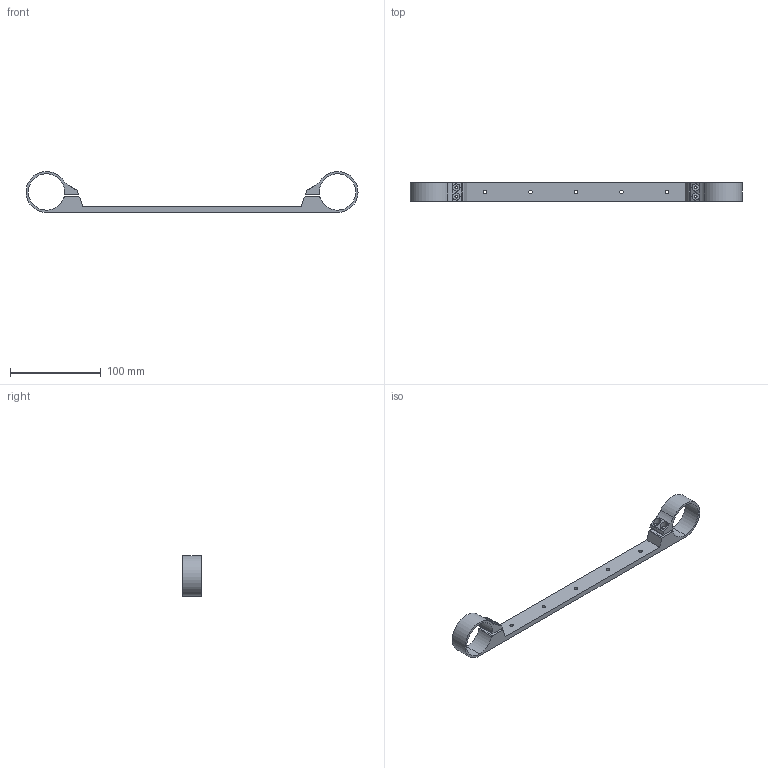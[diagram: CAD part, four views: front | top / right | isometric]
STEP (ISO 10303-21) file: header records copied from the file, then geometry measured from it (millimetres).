
FILE_DESCRIPTION (( 'STEP AP214' ), '1' );
FILE_NAME ('蛹婥盓殤-8.STEP', '2024-05-30T01:37:36', ( 'China' ), ( 'Microsoft' ), 'SwSTEP 2.0', 'SolidWorks 2021', '' );
FILE_SCHEMA (( 'AUTOMOTIVE_DESIGN' ));
Length unit declared in the file: millimetre
Products named in the file (1): 蛹婥盓殤-8
Bounding box: 364.97 x 20 x 44.95 mm (x, y, z)
Volume: 59434 mm3; surface area: 29961.5 mm2
Topology: 1 solids, 1 shells, 72 faces, 198 edges, 132 vertices
Faces by surface type: cylinder 54, plane 18
Entity records: 2428 total; most frequent: DIRECTION 436, CARTESIAN_POINT 427, ORIENTED_EDGE 396, EDGE_CURVE 198, AXIS2_PLACEMENT_3D 173, VERTEX_POINT 132, EDGE_LOOP 102, CIRCLE 100
